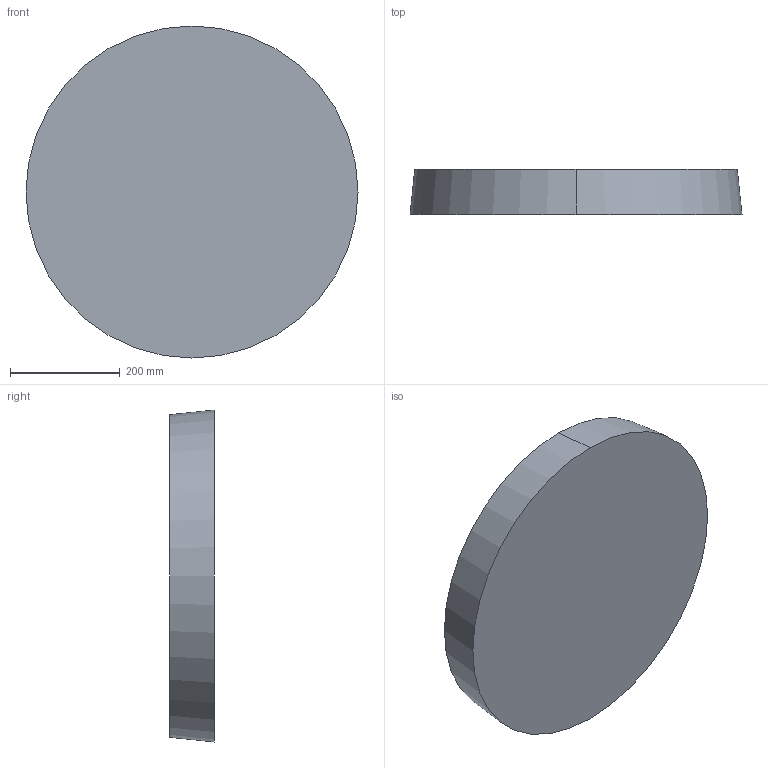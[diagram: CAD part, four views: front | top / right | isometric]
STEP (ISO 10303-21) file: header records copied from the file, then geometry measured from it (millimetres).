
FILE_DESCRIPTION (( 'STEP AP203' ), '1' );
FILE_NAME ('ORBIS60.STEP', '2025-06-20T06:47:49', ( '' ), ( '' ), 'SwSTEP 2.0', 'SolidWorks 2024', '' );
FILE_SCHEMA (( 'CONFIG_CONTROL_DESIGN' ));
Length unit declared in the file: millimetre
Products named in the file (1): ORBIS60
Bounding box: 605 x 82 x 605 mm (x, y, z)
Surface area: 748800.3 mm2 (no closed solid volume)
Topology: 0 solids, 2 shells, 64 faces, 183 edges, 122 vertices
Faces by surface type: cylinder 58, cone 4, plane 2
Entity records: 6265 total; most frequent: CARTESIAN_POINT 4846, ORIENTED_EDGE 250, DIRECTION 207, EDGE_CURVE 183, VERTEX_POINT 122, B_SPLINE_CURVE_WITH_KNOTS 114, AXIS2_PLACEMENT_3D 73, EDGE_LOOP 65
